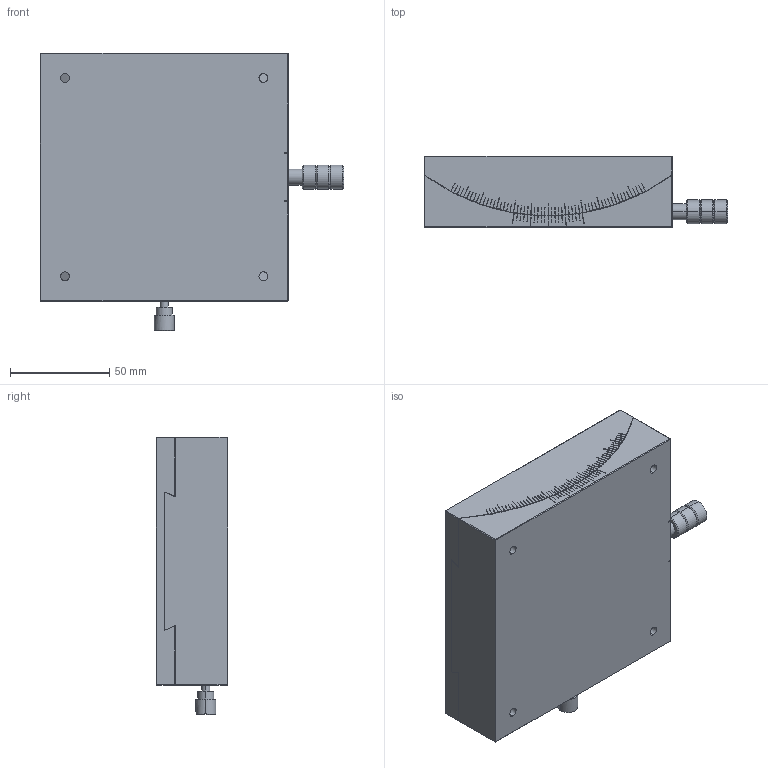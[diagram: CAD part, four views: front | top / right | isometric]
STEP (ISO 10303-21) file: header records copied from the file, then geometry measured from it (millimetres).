
FILE_DESCRIPTION (( 'STEP AP214' ), '1' );
FILE_NAME ('PT-SD317蚾饜极.STEP', '2025-01-03T09:29:31', ( '' ), ( '' ), 'SwSTEP 2.0', 'SolidWorks 2022', '' );
FILE_SCHEMA (( 'AUTOMOTIVE_DESIGN' ));
Length unit declared in the file: millimetre
Products named in the file (3): PT-SD317 菁釱; PT-SD317 賑雄す怢; PT-SD317蚾饜极
Assembly tree (2 placements, depth 2):
  PT-SD317蚾饜极
    PT-SD317 菁釱
    PT-SD317 賑雄す怢
Bounding box: 153 x 36 x 140 mm (x, y, z)
Volume: 554263.5 mm3; surface area: 93112 mm2
Topology: 2 solids, 2 shells, 594 faces, 1600 edges, 995 vertices
Faces by surface type: plane 384, cone 118, cylinder 92
Entity records: 18970 total; most frequent: CARTESIAN_POINT 3550, DIRECTION 3114, ORIENTED_EDGE 3100, EDGE_CURVE 1550, LINE 1116, VECTOR 1116, AXIS2_PLACEMENT_3D 999, VERTEX_POINT 995
